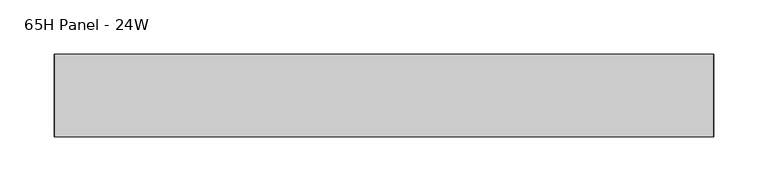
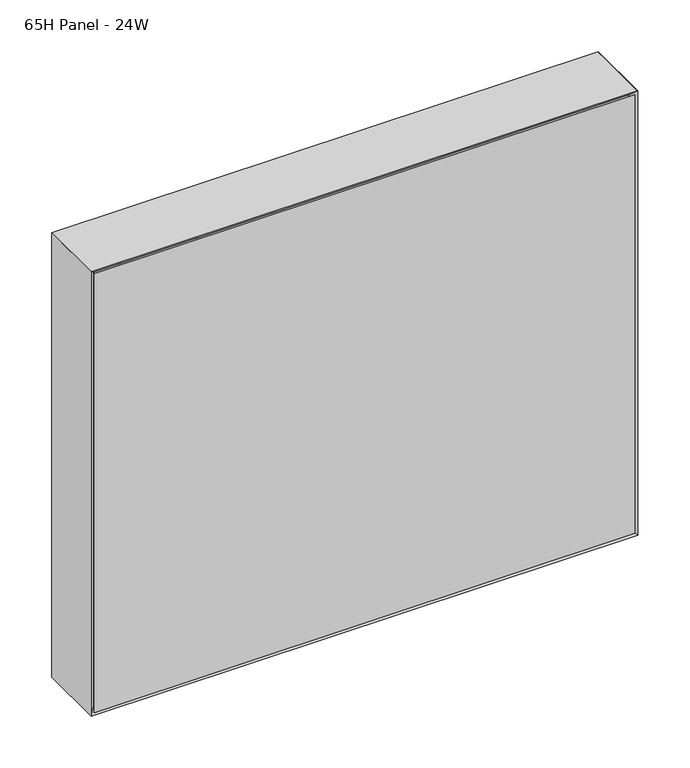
"""IFC4 building model written with IfcOpenShell, lengths in millimetres: furniture geometry, Steelcase - Montage - Frame - 20H - Enhanced Standard - Single Stack-On : 65H Panel - 24W."""

from ifc_helpers import new_model, si_unit, frame, origin, place, context, project, spatial, polyline, outline, extrude, faceted_brep, source, transform, mapped, element, save


def furniture_65h_panel_24w_2fd4ee34(model_context):
    return source(origin(), model_context, "Body", "SolidModel", [
        faceted_brep([(600.0750027, 31.7500194, 2174.8749516), (9.5250028, 31.7500194, 2174.8749516), (9.5250028, 31.7500194, 1670.05), (600.0750027, 31.7500194, 1670.05), (606.425, 38.1000194, 2181.2249516), (606.425, 38.1000194, 1663.7), (3.175, 38.1000194, 1663.7), (3.175, 38.1000194, 2181.2249516)], [[[0, 1, 2, 3]], [[4, 5, 6, 7]], [[4, 0, 3, 5]], [[5, 3, 2, 6]], [[6, 2, 1, 7]], [[7, 1, 0, 4]]]),
        faceted_brep([(600.0750027, -31.7500194, 2174.8749516), (600.0750027, -31.7500194, 1670.05), (9.5250028, -31.7500194, 1670.05), (9.5250028, -31.7500194, 2174.8749516), (606.425, -38.1000194, 2181.2249516), (3.175, -38.1000194, 2181.2249516), (3.175, -38.1000194, 1663.7), (606.425, -38.1000194, 1663.7)], [[[0, 1, 2, 3]], [[4, 5, 6, 7]], [[4, 7, 1, 0]], [[7, 6, 2, 1]], [[6, 5, 3, 2]], [[5, 4, 0, 3]]]),
        faceted_brep([(609.6, -38.1000015, 1660.525), (609.6, 38.1000015, 1660.525), (609.6, 38.1000015, 2184.3999516), (609.6, -38.1000106, 2184.3999515), (0.0, 38.1000015, 1660.525), (0.0, -38.1000015, 1660.525), (0.0, -38.1000015, 2184.3999516), (0.0, 38.1000015, 2184.3999516), (6.3500484, 31.749953, 1666.8750484), (603.2499879, 31.749953, 1666.8750484), (6.35, -31.749953, 1666.8750484), (603.2499879, -31.749953, 1666.8750484), (6.3500165, 31.749985, 2178.049935), (6.3500006, -31.7500009, 2178.0499031), (603.2499879, -31.7499979, 2178.0499031), (603.2499879, 31.7499889, 2178.0499394)], [[[0, 1, 2, 3]], [[4, 5, 6, 7]], [[1, 0, 5, 4]], [[1, 4, 8, 9]], [[9, 8, 10, 11]], [[5, 0, 11, 10]], [[4, 7, 12, 8]], [[6, 5, 10, 13]], [[10, 8, 12, 13]], [[9, 11, 14, 15]], [[0, 3, 14, 11]], [[2, 1, 9, 15]], [[3, 2, 15, 14]], [[7, 6, 13, 12]]]),
        faceted_brep([(609.6, -38.1000015, 2184.3999516), (0.0, -38.1000015, 2184.3999516), (6.3500484, -31.749953, 2178.0499031), (603.2499516, -31.749953, 2178.0499031), (6.3500484, 31.749953, 2178.0499031), (603.2499516, 31.749953, 2178.0499031), (0.0, 38.1000015, 2184.3999516), (609.6, 38.1000015, 2184.3999516)], [[[0, 1, 2, 3]], [[3, 2, 4, 5]], [[6, 7, 5, 4]], [[1, 0, 7, 6]], [[2, 1, 6, 4]], [[0, 3, 5, 7]]]),
        extrude(outline(polyline([(603.2499879, 31.7500016), (603.2499879, -31.7499985), (6.35, -31.7499985), (6.35, 31.7500016), (603.2499879, 31.7500016)])), frame((0.0, 0.0, 1666.8702145), z_axis=(0.0, 0.0, 1.0), x_axis=(1.0, 0.0, 0.0)), (0.0, 0.0, 1.0), 511.1796886),
    ])


if __name__ == "__main__":
    model = new_model("IFC4")
    model_context = context("Model", 3, world=origin())
    ifc_project = project(units=[si_unit("LENGTHUNIT", "METRE", prefix="MILLI")], contexts=[model_context])
    site = spatial("IfcSite", under=ifc_project)
    building = spatial("IfcBuilding", under=site)
    placement = place(None, origin())
    furniture_65h_panel_24w_shape = furniture_65h_panel_24w_2fd4ee34(model_context)
    element("IfcFurniture", 1, ObjectType="Steelcase - Montage - Frame - 20H - Enhanced Standard - Single Stack-On : 65H Panel - 24W", at=placement, inside=building, context=model_context, shape_type="MappedRepresentation", body=[
        mapped(furniture_65h_panel_24w_shape, transform((0.0, 0.0, 0.0), x_axis=(1.0, 0.0, 0.0), y_axis=(0.0, 1.0, 0.0), z_axis=(0.0, 0.0, 1.0))),
    ])
    save(model, "model.ifc")
